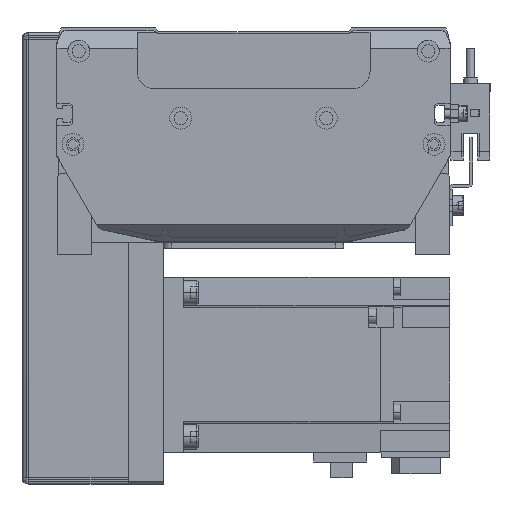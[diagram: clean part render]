
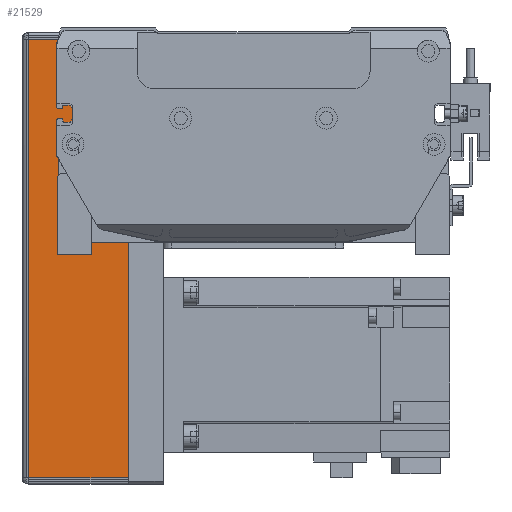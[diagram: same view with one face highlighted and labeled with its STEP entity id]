
A CAD part, front view. The second image highlights one B-rep face of the part: STEP entity #21529.
In plain terms, the highlighted planar face has unit normal (0, -1, 0) as drawn and (0, 1, 0) by its records, which use the part's own axes.
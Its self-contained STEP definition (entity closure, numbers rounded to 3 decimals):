
#413 = LINE ( 'NONE', #30681, #26797 ) ;
#1421 = LINE ( 'NONE', #30906, #9671 ) ;
#2529 = EDGE_LOOP ( 'NONE', ( #4418, #27595, #14192, #10287 ) ) ;
#2865 = EDGE_CURVE ( 'NONE', #15340, #20198, #41299, .T. ) ;
#3677 = CARTESIAN_POINT ( 'NONE',  ( 115.793, 37., 0. ) ) ;
#4418 = ORIENTED_EDGE ( 'NONE', *, *, #2865, .F. ) ;
#5993 = EDGE_CURVE ( 'NONE', #40298, #20198, #413, .T. ) ;
#7926 = AXIS2_PLACEMENT_3D ( 'NONE', #28264, #18119, #24771 ) ;
#9671 = VECTOR ( 'NONE', #11080, 1000. ) ;
#10287 = ORIENTED_EDGE ( 'NONE', *, *, #5993, .T. ) ;
#11080 = DIRECTION ( 'NONE',  ( -1., 0., 0. ) ) ;
#11474 = PLANE ( 'NONE',  #7926 ) ;
#12579 = CARTESIAN_POINT ( 'NONE',  ( -34.793, 37., 35. ) ) ;
#12863 = FACE_OUTER_BOUND ( 'NONE', #2529, .T. ) ;
#14192 = ORIENTED_EDGE ( 'NONE', *, *, #18489, .T. ) ;
#15340 = VERTEX_POINT ( 'NONE', #27966 ) ;
#16299 = VECTOR ( 'NONE', #40558, 1000. ) ;
#17244 = EDGE_CURVE ( 'NONE', #17862, #15340, #1421, .T. ) ;
#17862 = VERTEX_POINT ( 'NONE', #20729 ) ;
#18119 = DIRECTION ( 'NONE',  ( 0., -1., 0. ) ) ;
#18489 = EDGE_CURVE ( 'NONE', #17862, #40298, #42751, .T. ) ;
#20024 = CARTESIAN_POINT ( 'NONE',  ( -34.793, 37., 0. ) ) ;
#20198 = VERTEX_POINT ( 'NONE', #20024 ) ;
#20729 = CARTESIAN_POINT ( 'NONE',  ( 115.793, 37., 34.263 ) ) ;
#21101 = DIRECTION ( 'NONE',  ( -1., 0., 0. ) ) ;
#21529 = ADVANCED_FACE ( 'NONE', ( #12863 ), #11474, .F. ) ;
#21949 = DIRECTION ( 'NONE',  ( 0., 0., -1. ) ) ;
#24771 = DIRECTION ( 'NONE',  ( 0., 0., -1. ) ) ;
#26797 = VECTOR ( 'NONE', #21101, 1000. ) ;
#27595 = ORIENTED_EDGE ( 'NONE', *, *, #17244, .F. ) ;
#27966 = CARTESIAN_POINT ( 'NONE',  ( -34.793, 37., 34.263 ) ) ;
#28264 = CARTESIAN_POINT ( 'NONE',  ( -162.166, 37., 36.5 ) ) ;
#30681 = CARTESIAN_POINT ( 'NONE',  ( -162.166, 37., 0. ) ) ;
#30906 = CARTESIAN_POINT ( 'NONE',  ( -37., 37., 34.263 ) ) ;
#32469 = VECTOR ( 'NONE', #21949, 1000. ) ;
#37360 = CARTESIAN_POINT ( 'NONE',  ( 115.793, 37., 36.5 ) ) ;
#40298 = VERTEX_POINT ( 'NONE', #3677 ) ;
#40558 = DIRECTION ( 'NONE',  ( 0., 0., -1. ) ) ;
#41299 = LINE ( 'NONE', #12579, #32469 ) ;
#42751 = LINE ( 'NONE', #37360, #16299 ) ;
